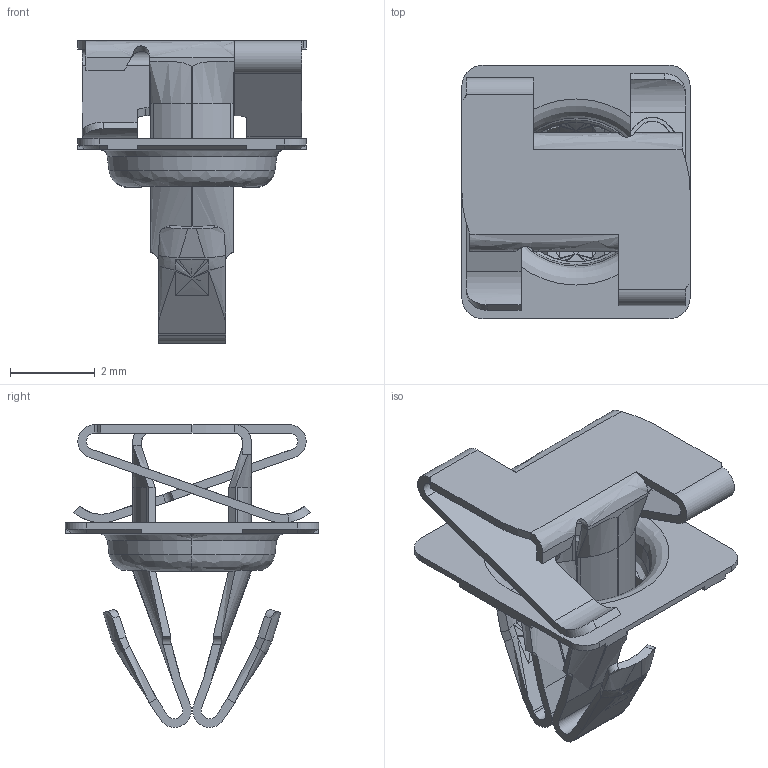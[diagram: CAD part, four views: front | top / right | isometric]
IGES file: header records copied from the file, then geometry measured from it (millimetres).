
Global section: file name: C:\CoreTechnologie\3D-In/01ZY21CY0M.igs; native system: CT CoreTechnologie 3D Evolution; preprocessor: 2006; date: 1200121.144209; units: millimetre
Bounding box: 5.4 x 6 x 7.16 mm (x, y, z)
Volume: 23.3 mm3; surface area: 233.6 mm2
Topology: 2 solids, 2 shells, 347 faces, 895 edges, 525 vertices
Faces by surface type: plane 167, bspline 110, revolution 70
